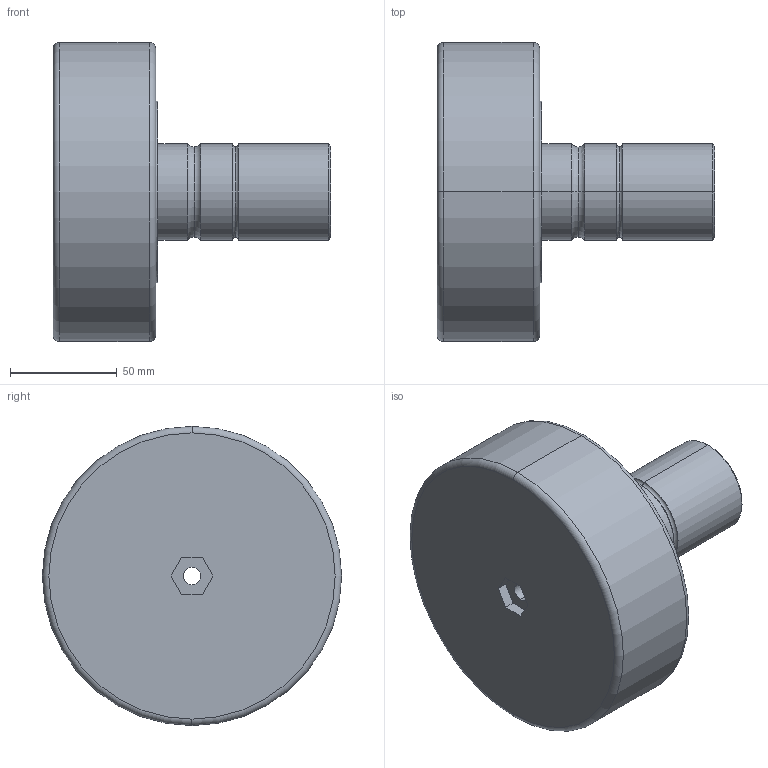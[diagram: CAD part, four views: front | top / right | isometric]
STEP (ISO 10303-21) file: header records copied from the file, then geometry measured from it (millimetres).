
FILE_DESCRIPTION (( 'STEP AP214' ), '1' );
FILE_NAME ('3DNUKR140OK.step', '2015-03-26T10:13:15', ( 'usuario' ), ( 'Hewlett-Packard Company' ), 'SwSTEP 2.0', 'SolidWorks 2017', '' );
FILE_SCHEMA (( 'AUTOMOTIVE_DESIGN' ));
Length unit declared in the file: millimetre
Products named in the file (1): 3DNUKR140OK
Bounding box: 130 x 140 x 140 mm (x, y, z)
Volume: 861679.4 mm3; surface area: 66391.4 mm2
Topology: 1 solids, 1 shells, 46 faces, 103 edges, 62 vertices
Faces by surface type: plane 18, cylinder 14, torus 12, cone 2
Entity records: 1420 total; most frequent: CARTESIAN_POINT 324, DIRECTION 240, ORIENTED_EDGE 206, EDGE_CURVE 103, AXIS2_PLACEMENT_3D 94, VERTEX_POINT 62, EDGE_LOOP 53, LINE 52
